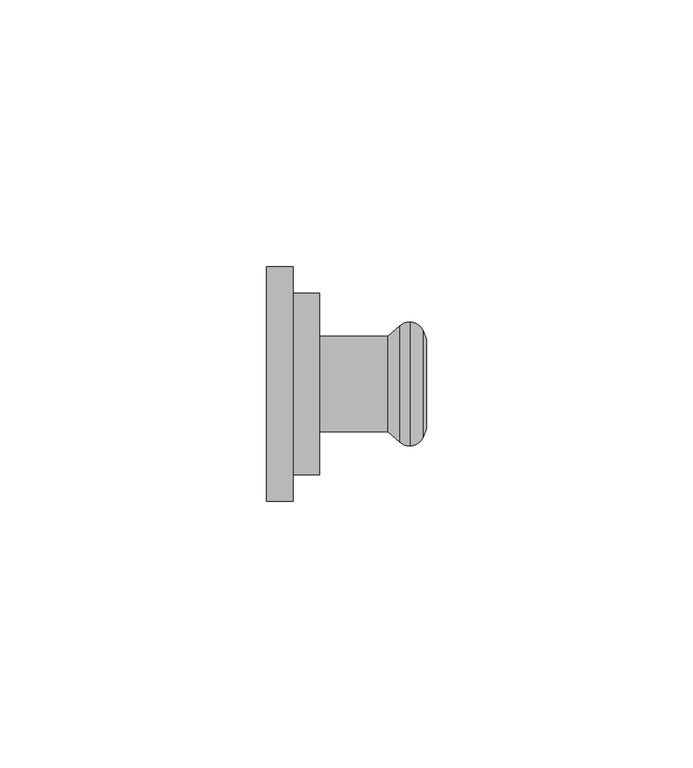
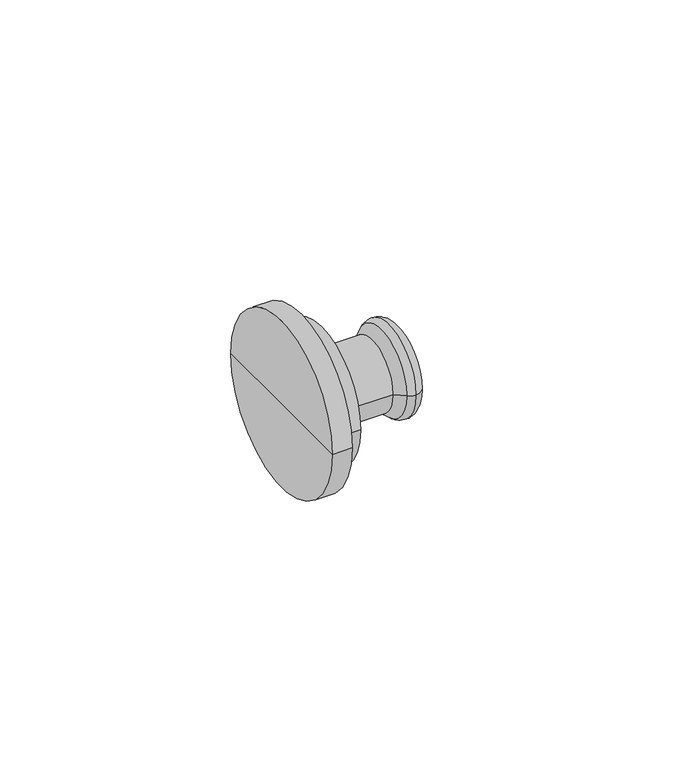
"""IFC4 building model written with IfcOpenShell, lengths in millimetres: pipe fitting geometry, KAN-therm Inox tuleja kołnierzowa : KAN-therm Inox tuleja kołnierzowa."""

from ifc_helpers import new_model, si_unit, point, frame, origin, place, context, project, spatial, polyline, circle_curve, ellipse_curve, trimmed, source, transform, mapped, element, save
from ifc_brep_helpers import plane_surface, cylinder_surface, revolved_surface, advanced_brep


def pipe_fitting_5e28d667(model_context):
    return source(origin(), model_context, "Body", "AdvancedBrep", [
        advanced_brep(
        [(25.0922627, -10.9370225, 0.0), (25.0922627, 10.9370225, 0.0), (26.8921278, 11.625, 0.0), (26.8921278, -11.625, 0.0), (22.7838092, -9.0, 0.0), (22.7838092, 9.0, 0.0), (10.0, -9.0, 0.0), (10.0, 9.0, 0.0), (30.0, -8.2880302, 0.0), (30.0, 8.2880302, 0.0), (30.0, 0.0, 0.0), (29.432052, -9.8484544, 0.0), (29.432052, 9.8484544, 0.0), (0.0, 0.0, 0.0), (0.0, 22.0, 0.0), (0.0, -22.0, 0.0), (5.0, 22.0, 0.0), (5.0, -22.0, 0.0), (10.0, -17.0, 0.0), (10.0, 17.0, 0.0), (5.0, -17.0, 0.0), (5.0, 17.0, 0.0)],
        [
            (0, 1, circle_curve(frame((25.0922627, 0.0, 0.0), z_axis=(1.0, 0.0, 0.0), x_axis=(0.0, 1.0, 0.0)), 10.9370225)),
            (1, 2, circle_curve(frame((26.8935049, 8.9230333, 0.0), z_axis=(0.0, 0.0, -1.0), x_axis=(1.0, 0.0, 0.0)), 2.701967)),
            (2, 3, circle_curve(frame((26.8921278, 0.0, 0.0), z_axis=(-1.0, 0.0, 0.0), x_axis=(0.0, 1.0, 0.0)), 11.625)),
            (3, 0, circle_curve(frame((26.8935049, -8.9230333, 0.0), z_axis=(0.0, 0.0, -1.0), x_axis=(1.0, 0.0, 0.0)), 2.701967)),
            (1, 0, circle_curve(frame((25.0922627, 0.0, 0.0), z_axis=(1.0, 0.0, 0.0), x_axis=(0.0, 1.0, 0.0)), 10.9370225)),
            (3, 2, circle_curve(frame((26.8921278, 0.0, 0.0), z_axis=(-1.0, 0.0, 0.0), x_axis=(0.0, 1.0, 0.0)), 11.625)),
            (4, 5, circle_curve(frame((22.7838092, 0.0, 0.0), z_axis=(1.0, 0.0, 0.0), x_axis=(0.0, 1.0, 0.0)), 9.0)),
            (5, 1),
            (0, 4),
            (5, 4, circle_curve(frame((22.7838092, 0.0, 0.0), z_axis=(1.0, 0.0, 0.0), x_axis=(0.0, 1.0, 0.0)), 9.0)),
            (6, 7, circle_curve(frame((10.0, 0.0, 0.0), z_axis=(1.0, 0.0, 0.0), x_axis=(0.0, 1.0, 0.0)), 9.0)),
            (7, 5),
            (4, 6),
            (7, 6, circle_curve(frame((10.0, 0.0, 0.0), z_axis=(1.0, 0.0, 0.0), x_axis=(0.0, 1.0, 0.0)), 9.0)),
            (8, 9, circle_curve(frame((30.0, 0.0, 0.0), z_axis=(1.0, 0.0, 0.0), x_axis=(0.0, 1.0, 0.0)), 8.2880302)),
            (9, 10),
            (10, 8),
            (9, 8, circle_curve(frame((30.0, 0.0, 0.0), z_axis=(1.0, 0.0, 0.0), x_axis=(0.0, 1.0, 0.0)), 8.2880302)),
            (11, 12, circle_curve(frame((29.432052, 0.0, 0.0), z_axis=(1.0, 0.0, 0.0), x_axis=(0.0, 1.0, 0.0)), 9.8484544)),
            (12, 9),
            (8, 11),
            (12, 11, circle_curve(frame((29.432052, 0.0, 0.0), z_axis=(1.0, 0.0, 0.0), x_axis=(0.0, 1.0, 0.0)), 9.8484544)),
            (2, 12, circle_curve(frame((26.89488, 8.9249993, 0.0), z_axis=(0.0, 0.0, -1.0), x_axis=(1.0, 0.0, 0.0)), 2.7000021)),
            (11, 3, circle_curve(frame((26.89488, -8.9249993, 0.0), z_axis=(0.0, 0.0, -1.0), x_axis=(1.0, 0.0, 0.0)), 2.7000021)),
            (13, 14),
            (14, 15, circle_curve(frame((0.0, 0.0, 0.0), z_axis=(-1.0, 0.0, 0.0), x_axis=(0.0, 1.0, 0.0)), 22.0)),
            (15, 13),
            (15, 14, circle_curve(frame((0.0, 0.0, 0.0), z_axis=(-1.0, 0.0, 0.0), x_axis=(0.0, 1.0, 0.0)), 22.0)),
            (14, 16),
            (16, 17, circle_curve(frame((5.0, 0.0, 0.0), z_axis=(-1.0, 0.0, 0.0), x_axis=(0.0, 1.0, 0.0)), 22.0)),
            (17, 15),
            (17, 16, circle_curve(frame((5.0, 0.0, 0.0), z_axis=(-1.0, 0.0, 0.0), x_axis=(0.0, 1.0, 0.0)), 22.0)),
            (18, 19, circle_curve(frame((10.0, 0.0, 0.0), z_axis=(1.0, 0.0, 0.0), x_axis=(0.0, 1.0, 0.0)), 17.0)),
            (19, 7),
            (6, 18),
            (19, 18, circle_curve(frame((10.0, 0.0, 0.0), z_axis=(1.0, 0.0, 0.0), x_axis=(0.0, 1.0, 0.0)), 17.0)),
            (20, 21, circle_curve(frame((5.0, 0.0, 0.0), z_axis=(1.0, 0.0, 0.0), x_axis=(0.0, 1.0, 0.0)), 17.0)),
            (21, 19),
            (18, 20),
            (21, 20, circle_curve(frame((5.0, 0.0, 0.0), z_axis=(1.0, 0.0, 0.0), x_axis=(0.0, 1.0, 0.0)), 17.0)),
            (16, 21),
            (20, 17),
        ],
        [
            revolved_surface(trimmed(ellipse_curve(frame((26.8935049, 8.9230333, 0.0), z_axis=(0.0, 0.0, 1.0), x_axis=(1.0, 0.0, 0.0)), 2.701967, 2.701967), [point((26.8921278, 11.625, 0.0))], [point((25.0922627, 10.9370225, 0.0))], True, "CARTESIAN"), (1343.742668, 0.0, 0.0), (-1.0, 0.0, 0.0)),
            revolved_surface(polyline([(25.0922627, 10.9370225, 0.0), (22.7838092, 9.0, 0.0)]), (1343.742668, 0.0, 0.0), (-1.0, 0.0, 0.0)),
            cylinder_surface(frame((1343.742668, 0.0, 0.0), z_axis=(-1.0, 0.0, 0.0), x_axis=(0.0, 1.0, 0.0)), 9.0),
            plane_surface(frame((30.0, 0.0, 0.0), z_axis=(1.0, 0.0, 0.0), x_axis=(0.0, 1.0, 0.0))),
            revolved_surface(polyline([(30.0, 8.2880302, 0.0), (29.432052, 9.8484544, 0.0)]), (1343.742668, 0.0, 0.0), (-1.0, 0.0, 0.0)),
            revolved_surface(trimmed(ellipse_curve(frame((26.89488, 8.9249993, 0.0), z_axis=(0.0, 0.0, 1.0), x_axis=(1.0, 0.0, 0.0)), 2.7000021, 2.7000021), [point((29.432052, 9.8484544, 0.0))], [point((26.8921278, 11.625, 0.0))], True, "CARTESIAN"), (1343.742668, 0.0, 0.0), (-1.0, 0.0, 0.0)),
            plane_surface(frame((0.0, 0.0, 0.0), z_axis=(-1.0, 0.0, 0.0), x_axis=(0.0, 1.0, 0.0))),
            cylinder_surface(frame((1343.742668, 0.0, 0.0), z_axis=(-1.0, 0.0, 0.0), x_axis=(0.0, 1.0, 0.0)), 22.0),
            plane_surface(frame((10.0, 0.0, 0.0), z_axis=(1.0, 0.0, 0.0), x_axis=(0.0, 1.0, 0.0))),
            cylinder_surface(frame((1343.742668, 0.0, 0.0), z_axis=(-1.0, 0.0, 0.0), x_axis=(0.0, 1.0, 0.0)), 17.0),
            plane_surface(frame((5.0, 0.0, 0.0), z_axis=(1.0, 0.0, 0.0), x_axis=(0.0, 1.0, 0.0))),
        ],
        [
            (0, [[1, 2, 3, 4]]),
            (0, [[5, -4, 6, -2]]),
            (1, [[7, 8, -1, 9]]),
            (1, [[10, -9, -5, -8]]),
            (2, [[11, 12, -7, 13]]),
            (2, [[14, -13, -10, -12]]),
            (3, [[15, 16, 17]]),
            (3, [[18, -17, -16]]),
            (4, [[19, 20, -15, 21]]),
            (4, [[22, -21, -18, -20]]),
            (5, [[-3, 23, -19, 24]]),
            (5, [[-6, -24, -22, -23]]),
            (6, [[25, 26, 27]]),
            (6, [[-27, 28, -25]]),
            (7, [[-26, 29, 30, 31]]),
            (7, [[-28, -31, 32, -29]]),
            (8, [[33, 34, -11, 35]]),
            (8, [[36, -35, -14, -34]]),
            (9, [[37, 38, -33, 39]]),
            (9, [[40, -39, -36, -38]]),
            (10, [[-30, 41, -37, 42]]),
            (10, [[-32, -42, -40, -41]]),
        ],
    ),
    ])


if __name__ == "__main__":
    model = new_model("IFC4")
    model_context = context("Model", 3, world=origin())
    ifc_project = project(units=[si_unit("LENGTHUNIT", "METRE", prefix="MILLI")], contexts=[model_context])
    site = spatial("IfcSite", under=ifc_project)
    building = spatial("IfcBuilding", under=site)
    placement = place(None, origin())
    pipe_fitting_shape = pipe_fitting_5e28d667(model_context)
    element("IfcPipeFitting", 1, ObjectType="KAN-therm Inox tuleja kołnierzowa : KAN-therm Inox tuleja kołnierzowa", at=placement, inside=building, context=model_context, shape_type="MappedRepresentation", body=[
        mapped(pipe_fitting_shape, transform((0.0, 0.0, 0.0), x_axis=(1.0, 0.0, 0.0), y_axis=(0.0, 1.0, 0.0), z_axis=(0.0, 0.0, 1.0))),
    ])
    save(model, "model.ifc")
